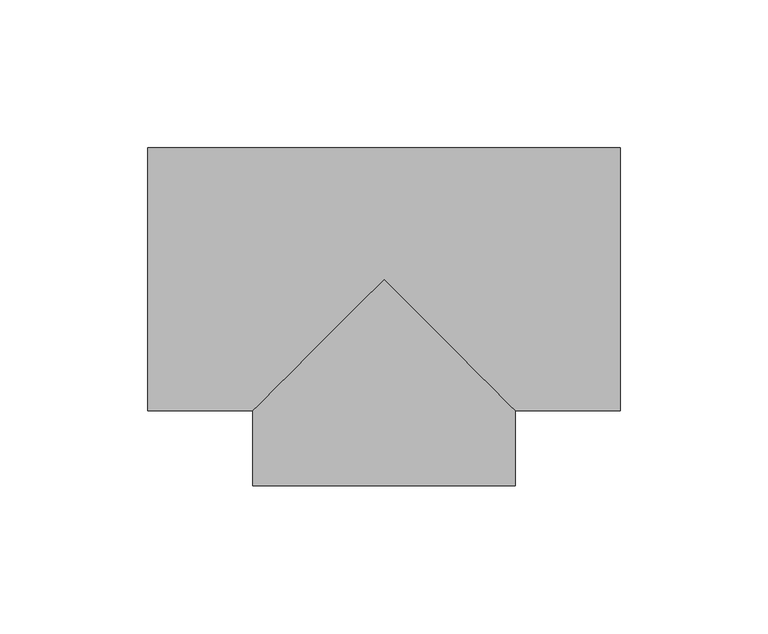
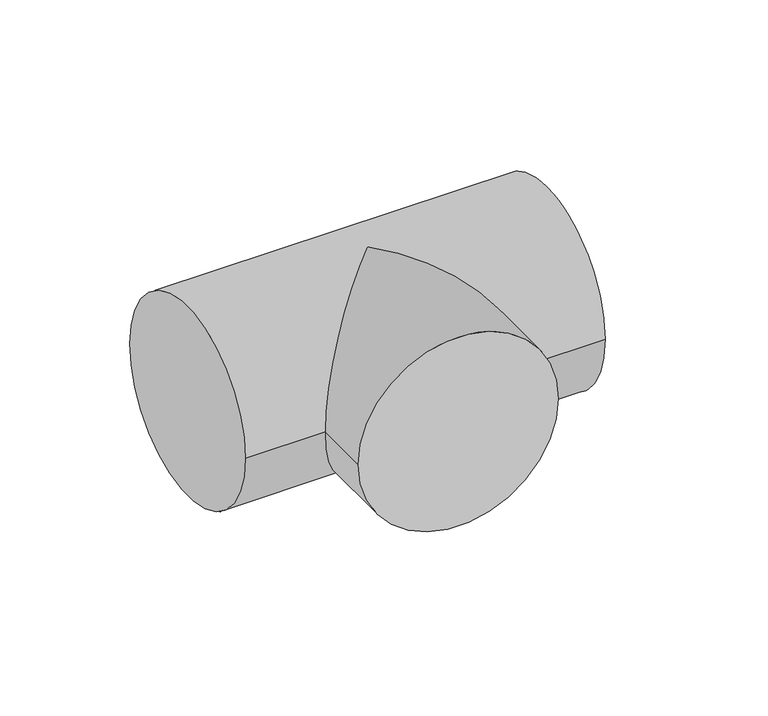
"""IFC4 building model written with IfcOpenShell, lengths in millimetres: pipe fitting geometry, ADSK_ДетальСтальнаяСварная_Тройник_ГОСТ17376-2001 : Исполнение 2."""

from ifc_helpers import new_model, si_unit, frame, origin, place, context, project, spatial, circle_curve, ellipse_curve, source, transform, mapped, element, save
from ifc_brep_helpers import plane_surface, cylinder_surface, advanced_brep


def pipe_fitting_004695f4(model_context):
    return source(origin(), model_context, "Body", "AdvancedBrep", [
        advanced_brep(
        [(-80.0, -44.5, 0.0), (-80.0, 44.5, 0.0), (80.0, -44.5, 0.0), (80.0, 44.5, 0.0), (-44.5, -44.5, 0.0), (0.0, 0.0, 44.5), (44.5, -44.5, 0.0), (0.0, 0.0, -44.5), (-44.5, -70.0, 0.0), (44.5, -70.0, 0.0)],
        [
            (0, 1, circle_curve(frame((-80.0, 0.0, 0.0), z_axis=(-1.0, 0.0, 0.0), x_axis=(0.0, 1.0, 0.0)), 44.5)),
            (1, 0, circle_curve(frame((-80.0, 0.0, 0.0), z_axis=(-1.0, 0.0, 0.0), x_axis=(0.0, 1.0, 0.0)), 44.5)),
            (2, 3, circle_curve(frame((80.0, 0.0, 0.0), z_axis=(1.0, 0.0, 0.0), x_axis=(0.0, 1.0, 0.0)), 44.5)),
            (3, 2, circle_curve(frame((80.0, 0.0, 0.0), z_axis=(1.0, 0.0, 0.0), x_axis=(0.0, 1.0, 0.0)), 44.5)),
            (0, 4),
            (4, 5, ellipse_curve(frame((0.0, 0.0, 0.0), z_axis=(-0.707106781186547, 0.7071067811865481, 0.0), x_axis=(-0.707106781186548, -0.707106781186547, 0.0)), 62.9325035, 44.5)),
            (5, 6, ellipse_curve(frame((0.0, 0.0, 0.0), z_axis=(0.707106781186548, 0.7071067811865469, 0.0), x_axis=(-0.707106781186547, 0.707106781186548, 0.0)), 62.9325035, 44.5)),
            (6, 2),
            (3, 1),
            (6, 7, ellipse_curve(frame((0.0, 0.0, 0.0), z_axis=(0.707106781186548, 0.7071067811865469, 0.0), x_axis=(-0.707106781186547, 0.707106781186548, 0.0)), 62.9325035, 44.5)),
            (7, 4, ellipse_curve(frame((0.0, 0.0, 0.0), z_axis=(-0.707106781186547, 0.7071067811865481, 0.0), x_axis=(-0.707106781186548, -0.707106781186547, 0.0)), 62.9325035, 44.5)),
            (8, 9, circle_curve(frame((0.0, -70.0, 0.0), z_axis=(0.0, -1.0, 0.0), x_axis=(1.0, 0.0, 0.0)), 44.5)),
            (9, 8, circle_curve(frame((0.0, -70.0, 0.0), z_axis=(0.0, -1.0, 0.0), x_axis=(1.0, 0.0, 0.0)), 44.5)),
            (9, 6),
            (4, 8),
        ],
        [
            plane_surface(frame((-80.0, 0.0, 0.0), z_axis=(-1.0, 0.0, 0.0), x_axis=(0.0, 0.0, 1.0))),
            plane_surface(frame((80.0, 0.0, 0.0), z_axis=(1.0, 0.0, 0.0), x_axis=(0.0, 0.0, 1.0))),
            cylinder_surface(frame((-80.0, 0.0, 0.0), z_axis=(-1.0, 0.0, 0.0), x_axis=(0.0, 1.0, 0.0)), 44.5),
            plane_surface(frame((0.0, -70.0, 0.0), z_axis=(0.0, -1.0, 0.0), x_axis=(0.0, 0.0, 1.0))),
            cylinder_surface(frame((0.0, 0.0, 0.0), z_axis=(0.0, 1.0, 0.0), x_axis=(1.0, 0.0, 0.0)), 44.5),
        ],
        [
            (0, [[1, 2]]),
            (1, [[3, 4]]),
            (2, [[-1, 5, 6, 7, 8, -4, 9]]),
            (2, [[-2, -9, -3, -8, 10, 11, -5]]),
            (3, [[12, 13]]),
            (4, [[-13, 14, -7, -6, 15]]),
            (4, [[-12, -15, -11, -10, -14]]),
        ],
    ),
    ])


if __name__ == "__main__":
    model = new_model("IFC4")
    model_context = context("Model", 3, world=origin())
    ifc_project = project(units=[si_unit("LENGTHUNIT", "METRE", prefix="MILLI")], contexts=[model_context])
    site = spatial("IfcSite", under=ifc_project)
    building = spatial("IfcBuilding", under=site)
    placement = place(None, origin())
    pipe_fitting_shape = pipe_fitting_004695f4(model_context)
    element("IfcPipeFitting", 1, ObjectType="ADSK_ДетальСтальнаяСварная_Тройник_ГОСТ17376-2001 : Исполнение 2", at=placement, inside=building, context=model_context, shape_type="MappedRepresentation", body=[
        mapped(pipe_fitting_shape, transform((0.0, 0.0, 0.0), x_axis=(1.0, 0.0, 0.0), y_axis=(0.0, 1.0, 0.0), z_axis=(0.0, 0.0, 1.0))),
    ])
    save(model, "model.ifc")
